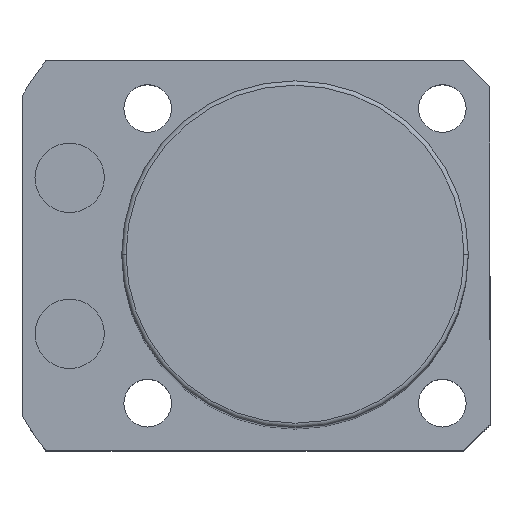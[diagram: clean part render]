
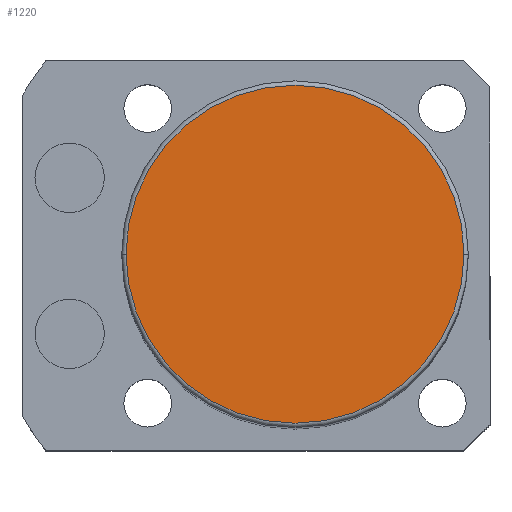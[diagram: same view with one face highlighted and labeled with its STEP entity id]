
A CAD part, top view. The second image highlights one B-rep face of the part: STEP entity #1220.
In plain terms, the highlighted planar face has unit normal (0, 0, 1).
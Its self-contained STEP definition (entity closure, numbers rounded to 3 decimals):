
#66 = EDGE_LOOP ( 'NONE', ( #1796, #1719 ) ) ;
#199 = VERTEX_POINT ( 'NONE', #1614 ) ;
#278 = DIRECTION ( 'NONE',  ( 1., 0., 0. ) ) ;
#769 = CARTESIAN_POINT ( 'NONE',  ( 0., 0., 118.5 ) ) ;
#778 = AXIS2_PLACEMENT_3D ( 'NONE', #1733, #1073, #278 ) ;
#958 = CARTESIAN_POINT ( 'NONE',  ( 0., 0., 118.5 ) ) ;
#1073 = DIRECTION ( 'NONE',  ( 0., 0., 1. ) ) ;
#1192 = CIRCLE ( 'NONE', #778, 19.5 ) ;
#1220 = ADVANCED_FACE ( 'NONE', ( #2338 ), #1573, .T. ) ;
#1553 = VERTEX_POINT ( 'NONE', #2452 ) ;
#1573 = PLANE ( 'NONE',  #2044 ) ;
#1614 = CARTESIAN_POINT ( 'NONE',  ( 19.5, 0., 118.5 ) ) ;
#1618 = DIRECTION ( 'NONE',  ( 1., 0., 0. ) ) ;
#1719 = ORIENTED_EDGE ( 'NONE', *, *, #1892, .T. ) ;
#1733 = CARTESIAN_POINT ( 'NONE',  ( 0., 0., 118.5 ) ) ;
#1796 = ORIENTED_EDGE ( 'NONE', *, *, #2313, .T. ) ;
#1892 = EDGE_CURVE ( 'NONE', #1553, #199, #1192, .T. ) ;
#2044 = AXIS2_PLACEMENT_3D ( 'NONE', #958, #2659, #2220 ) ;
#2220 = DIRECTION ( 'NONE',  ( 1., 0., 0. ) ) ;
#2236 = DIRECTION ( 'NONE',  ( 0., 0., 1. ) ) ;
#2312 = CIRCLE ( 'NONE', #2455, 19.5 ) ;
#2313 = EDGE_CURVE ( 'NONE', #199, #1553, #2312, .T. ) ;
#2338 = FACE_OUTER_BOUND ( 'NONE', #66, .T. ) ;
#2452 = CARTESIAN_POINT ( 'NONE',  ( -19.5, 0., 118.5 ) ) ;
#2455 = AXIS2_PLACEMENT_3D ( 'NONE', #769, #2236, #1618 ) ;
#2659 = DIRECTION ( 'NONE',  ( 0., 0., 1. ) ) ;
